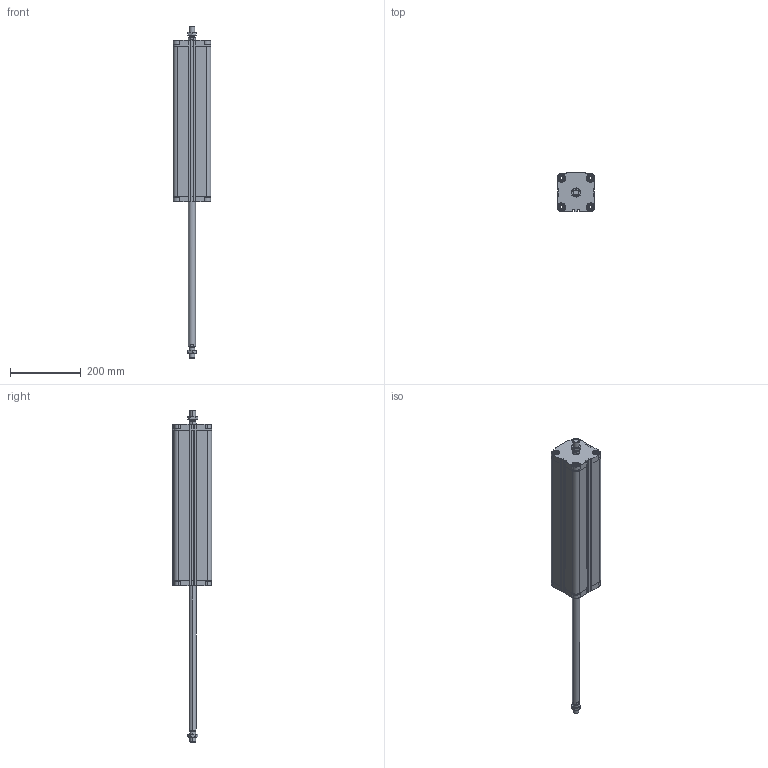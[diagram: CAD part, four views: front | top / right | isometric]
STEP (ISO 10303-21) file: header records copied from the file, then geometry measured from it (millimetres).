
FILE_DESCRIPTION (( 'STEP AP203' ), '1' );
FILE_NAME ('CDVU80-400M-P.STEP', '2020-07-21T15:27:58', ( '' ), ( '' ), 'SwSTEP 2.0', 'SolidWorks 2019', '' );
FILE_SCHEMA (( 'CONFIG_CONTROL_DESIGN' ));
Length unit declared in the file: millimetre
Products named in the file (1): CDVU80-400M-P
Bounding box: 107 x 111 x 936 mm (x, y, z)
Volume: 3096961.7 mm3; surface area: 526267.2 mm2
Topology: 4 solids, 4 shells, 706 faces, 1888 edges, 1234 vertices
Faces by surface type: plane 410, cylinder 216, cone 80
Entity records: 22967 total; most frequent: CARTESIAN_POINT 5177, ORIENTED_EDGE 3768, DIRECTION 3610, EDGE_CURVE 1884, AXIS2_PLACEMENT_3D 1235, VERTEX_POINT 1234, VECTOR 1140, LINE 1140
